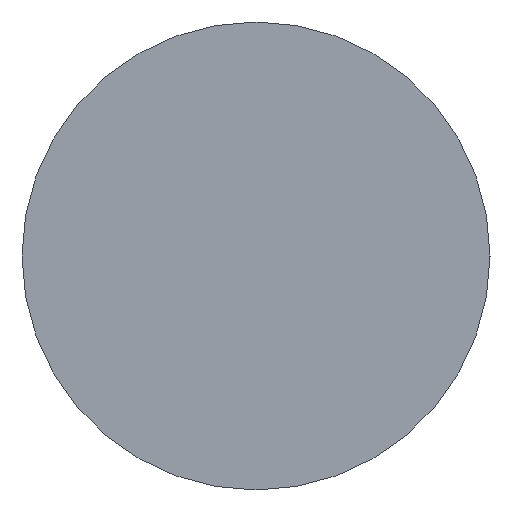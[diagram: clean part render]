
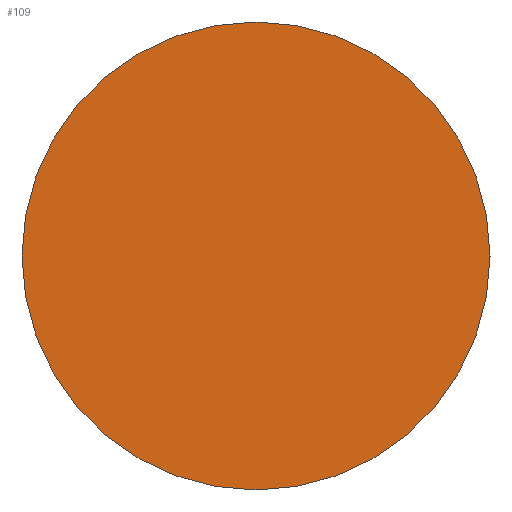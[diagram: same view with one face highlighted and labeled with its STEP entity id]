
A CAD part, left-side view. The second image highlights one B-rep face of the part: STEP entity #109.
In plain terms, the highlighted planar face has unit normal (-1, 0, 0).
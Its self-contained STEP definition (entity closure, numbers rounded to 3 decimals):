
#31 = CYLINDRICAL_SURFACE('',#32,18.);
#32 = AXIS2_PLACEMENT_3D('',#33,#34,#35);
#33 = CARTESIAN_POINT('',(-35.,-127.,234.));
#34 = DIRECTION('',(1.,0.,0.));
#35 = DIRECTION('',(-0.,0.,1.));
#56 = VERTEX_POINT('',#57);
#57 = CARTESIAN_POINT('',(-35.,-127.,252.));
#78 = EDGE_CURVE('',#56,#56,#79,.T.);
#79 = SURFACE_CURVE('',#80,(#85,#92),.PCURVE_S1.);
#80 = CIRCLE('',#81,18.);
#81 = AXIS2_PLACEMENT_3D('',#82,#83,#84);
#82 = CARTESIAN_POINT('',(-35.,-127.,234.));
#83 = DIRECTION('',(1.,0.,0.));
#84 = DIRECTION('',(-0.,0.,1.));
#85 = PCURVE('',#31,#86);
#86 = DEFINITIONAL_REPRESENTATION('',(#87),#91);
#87 = LINE('',#88,#89);
#88 = CARTESIAN_POINT('',(0.,0.));
#89 = VECTOR('',#90,1.);
#90 = DIRECTION('',(1.,0.));
#91 = ( GEOMETRIC_REPRESENTATION_CONTEXT(2) 
PARAMETRIC_REPRESENTATION_CONTEXT() REPRESENTATION_CONTEXT('2D SPACE',''
  ) );
#92 = PCURVE('',#93,#98);
#93 = PLANE('',#94);
#94 = AXIS2_PLACEMENT_3D('',#95,#96,#97);
#95 = CARTESIAN_POINT('',(-35.,-127.,234.));
#96 = DIRECTION('',(1.,0.,0.));
#97 = DIRECTION('',(-0.,0.,1.));
#98 = DEFINITIONAL_REPRESENTATION('',(#99),#103);
#99 = CIRCLE('',#100,18.);
#100 = AXIS2_PLACEMENT_2D('',#101,#102);
#101 = CARTESIAN_POINT('',(0.,0.));
#102 = DIRECTION('',(1.,0.));
#103 = ( GEOMETRIC_REPRESENTATION_CONTEXT(2) 
PARAMETRIC_REPRESENTATION_CONTEXT() REPRESENTATION_CONTEXT('2D SPACE',''
  ) );
#109 = ADVANCED_FACE('',(#110),#93,.F.);
#110 = FACE_BOUND('',#111,.T.);
#111 = EDGE_LOOP('',(#112));
#112 = ORIENTED_EDGE('',*,*,#78,.F.);
